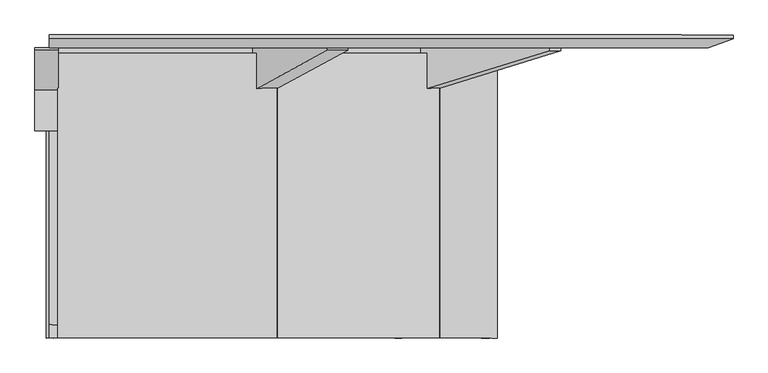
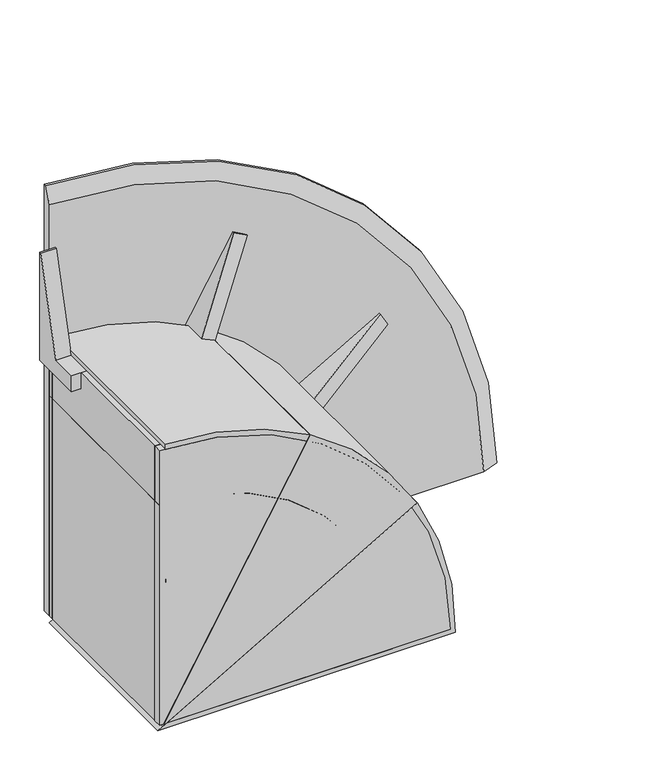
"""IFC4 building model written with IfcOpenShell, lengths in millimetres: proxy geometry, VIEWLINE^TABLE 1_4 PC ROUND-QUARTER ASSEMBLY."""

from ifc_helpers import new_model, si_unit, point, frame, origin, origin_2d, place, context, project, spatial, polyline, circle_curve, trimmed, segment, composite_curve, outline, extrude, source, transform, mapped, element, save
from ifc_brep_helpers import plane_surface, cylinder_surface, revolved_surface, advanced_brep


def generic_models_6417b330(model_context):
    return source(origin(), model_context, "Body", "SolidModel", [
        extrude(outline(composite_curve([segment(polyline([(-5.5095556, 9.8596993), (541.6570883, 955.7299311)]), True, "CONTINUOUS"), segment(trimmed(circle_curve(origin_2d(), 1098.55), [point((541.6570883, 955.7299311))], [point((946.1480309, 558.2257663))], False, "CARTESIAN"), True, "CONTINUOUS"), segment(polyline([(946.1480309, 558.2257663), (-5.5095556, 9.8596993)]), True, "CONTINUOUS")], self_intersect=False)), frame((0.0, -711.2, 0.0), z_axis=(0.0, 1.0, 0.0), x_axis=(0.0, 0.0, 1.0)), (0.0, 0.0, 1.0), 698.5),
        extrude(outline(composite_curve([segment(polyline([(0.0, 0.0), (0.0, 1079.5)]), True, "CONTINUOUS"), segment(trimmed(circle_curve(origin_2d(), 1079.5), [point((0.0, 1079.5))], [point((1079.5, 0.0))], False, "CARTESIAN"), True, "CONTINUOUS"), segment(polyline([(1079.5, 0.0), (0.0, 0.0)]), True, "CONTINUOUS")], self_intersect=False)), frame((0.0, -711.2, 0.0), z_axis=(0.0, 1.0, 0.0), x_axis=(0.0, 0.0, 1.0)), (0.0, 0.0, 1.0), 31.75),
        extrude(outline(composite_curve([segment(polyline([(38.2992403, 22.5219402), (946.9537274, 556.8579179)]), True, "CONTINUOUS"), segment(trimmed(circle_curve(origin_2d(), 1098.55), [point((946.9537274, 556.8579179))], [point((1098.3544415, 20.7273585))], False, "CARTESIAN"), True, "CONTINUOUS"), segment(polyline([(1098.3544415, 20.7273585), (38.2992403, 22.5219402)]), True, "CONTINUOUS")], self_intersect=False)), frame((0.0, -711.2, 0.0), z_axis=(0.0, 1.0, 0.0), x_axis=(0.0, 0.0, 1.0)), (0.0, 0.0, 1.0), 698.5),
        extrude(outline(polyline([(2.54, 0.0), (2.54, -425.45), (-3.81, -425.45), (-100.7942102, -63.5), (-200.66, -63.5), (-200.66, 0.0), (2.54, 0.0)])), frame((518.4275851, -2.54, 873.8129174), z_axis=(-0.866025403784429, 0.0, 0.5000000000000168), x_axis=(0.0, 1.0000000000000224, 0.0)), (0.0, 0.0, 1.0), 57.15),
        extrude(outline(composite_curve([segment(polyline([(863.6, 0.0), (0.0, 0.0), (0.0, 863.6)]), True, "CONTINUOUS"), segment(trimmed(circle_curve(origin_2d(), 863.6), [point((0.0, 863.6))], [point((863.6, 0.0))], False, "CARTESIAN"), True, "CONTINUOUS")], self_intersect=False)), frame((0.0, -711.2, 0.0), z_axis=(0.0, 1.0, 0.0), x_axis=(0.0, 0.0, 1.0)), (0.0, 0.0, 1.0), 711.2),
        extrude(outline(polyline([(0.0, 1441.2818987), (0.0, 1015.8318987), (-203.2, 1015.8318987), (-203.2, 1079.3318987), (-103.3342102, 1079.3318987), (-6.35, 1441.2818987), (0.0, 1441.2818987)])), frame((-35.56, 0.0, 0.0), z_axis=(1.0, 0.0, 0.0), x_axis=(0.0, 1.0, 0.0)), (0.0, 0.0, 1.0), 57.15),
        extrude(outline(composite_curve([segment(polyline([(-17.4625, -7.6326377), (-17.4625, 1098.4111997)]), True, "CONTINUOUS"), segment(trimmed(circle_curve(origin_2d(), 1098.55), [point((-17.4625, 1098.4111997))], [point((540.2753473, 956.5117101))], False, "CARTESIAN"), True, "CONTINUOUS"), segment(polyline([(540.2753473, 956.5117101), (-17.4625, -7.6326377)]), True, "CONTINUOUS")], self_intersect=False)), frame((0.0, -711.2, 0.0), z_axis=(0.0, 1.0, 0.0), x_axis=(0.0, 0.0, 1.0)), (0.0, 0.0, 1.0), 698.5),
        extrude(outline(polyline([(19.05, -679.45), (0.0, -679.45), (0.0, -19.05), (19.05, -19.05), (19.05, -679.45)])), frame((0.0, 0.0, 863.6), z_axis=(0.0, 0.0, 1.0), x_axis=(1.0, 0.0, 0.0)), (0.0, 0.0, 1.0), 215.7318987),
        advanced_brep(
        [(1676.4, 31.75, 0.0), (0.0, 31.75, 0.0), (0.0, 31.75, 1676.4), (1615.3373144, 0.0, 0.0), (0.0, 0.0, 1615.3373144), (0.0, 0.0, 0.0), (1676.4, 22.225, 0.0), (0.0, 22.225, 1676.4)],
        [
            (0, 1),
            (1, 2),
            (2, 0, circle_curve(frame((0.0, 31.75, 0.0), z_axis=(0.0, 1.0, 0.0), x_axis=(-1.0, 0.0, 0.0)), 1676.4)),
            (3, 4, circle_curve(frame((0.0, 0.0, 0.0), z_axis=(0.0, -1.0, 0.0), x_axis=(0.0, 0.0, 1.0)), 1615.3373144)),
            (4, 5),
            (5, 3),
            (3, 6),
            (6, 7, circle_curve(frame((0.0, 22.225, 0.0), z_axis=(0.0, -1.0, 0.0), x_axis=(0.0, 0.0, 1.0)), 1676.4)),
            (7, 4),
            (6, 0),
            (2, 7),
            (5, 1),
        ],
        [
            plane_surface(frame((838.2, 31.75, 838.2), z_axis=(0.0, 1.0, 0.0), x_axis=(0.0, 0.0, 1.0))),
            plane_surface(frame((838.2, 0.0, 838.2), z_axis=(0.0, -1.0, 0.0), x_axis=(0.0, 0.0, 1.0))),
            revolved_surface(polyline([(1615.337314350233, 0.0, 0.0), (1676.4, 22.225000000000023, 0.0)]), (0.0, -587.9347007, 0.0), (0.0, 1.0, 0.0)),
            cylinder_surface(frame((0.0, 0.0, 0.0), z_axis=(0.0, 1.0, 0.0), x_axis=(-1.0, 0.0, 0.0)), 1676.4),
            plane_surface(frame((1676.4, 0.0, 0.0), z_axis=(0.0, 0.0, -1.0), x_axis=(-1.0, 0.0, 0.0))),
            plane_surface(frame((0.0, 0.0, 838.2), z_axis=(-1.0, 0.0, 0.0), x_axis=(0.0, 0.0, 1.0))),
        ],
        [
            (0, [[1, 2, 3]]),
            (1, [[4, 5, 6]]),
            (2, [[7, 8, 9, -4]]),
            (3, [[-8, 10, -3, 11]]),
            (4, [[-1, -10, -7, -6, 12]]),
            (5, [[-9, -11, -2, -12, -5]]),
        ],
    ),
        extrude(outline(polyline([(2.54, 0.0), (2.54, -425.45), (-3.81, -425.45), (-100.7942102, -63.5), (-200.66, -63.5), (-200.66, 0.0), (2.54, 0.0)])), frame((885.8779174, -2.54, 497.5303921), z_axis=(-0.5000000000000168, 0.0, 0.866025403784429), x_axis=(0.0, 1.0000000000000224, 0.0)), (0.0, 0.0, 1.0), 57.15),
        extrude(outline(polyline([(0.0, 0.0), (12.7, 0.0), (12.7, -196.85), (0.0, -196.85), (0.0, 0.0)])), frame((596.4934671, 19.05, 735.687437), z_axis=(0.7071067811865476, 0.0, 0.7071067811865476), x_axis=(0.0, 1.0000000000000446, 0.0)), (0.0, 0.0, 1.0), 101.6),
        extrude(outline(composite_curve([segment(polyline([(1079.5, 0.0), (0.0, 0.0), (0.0, 1079.5)]), True, "CONTINUOUS"), segment(trimmed(circle_curve(origin_2d(), 1079.5), [point((0.0, 1079.5))], [point((1079.5, 0.0))], False, "CARTESIAN"), True, "CONTINUOUS")], self_intersect=False)), frame((0.0, -19.05, 0.0), z_axis=(0.0, 1.0, 0.0), x_axis=(0.0, 0.0, 1.0)), (0.0, 0.0, 1.0), 19.05),
    ])


if __name__ == "__main__":
    model = new_model("IFC4")
    model_context = context("Model", 3, world=origin())
    ifc_project = project(units=[si_unit("LENGTHUNIT", "METRE", prefix="MILLI")], contexts=[model_context])
    site = spatial("IfcSite", under=ifc_project)
    building = spatial("IfcBuilding", under=site)
    placement = place(None, origin())
    generic_models_shape = generic_models_6417b330(model_context)
    element("IfcBuildingElementProxy", 1, Name="VIEWLINE^TABLE 1_4 PC ROUND-QUARTER ASSEMBLY", ObjectType="VIEWLINE^TABLE 1_4 PC ROUND-QUARTER ASSEMBLY", at=placement, inside=building, context=model_context, shape_type="MappedRepresentation", body=[
        mapped(generic_models_shape, transform((0.0, 0.0, 0.0), x_axis=(1.0, 0.0, 0.0), y_axis=(0.0, 1.0, 0.0), z_axis=(0.0, 0.0, 1.0))),
    ])
    save(model, "model.ifc")
